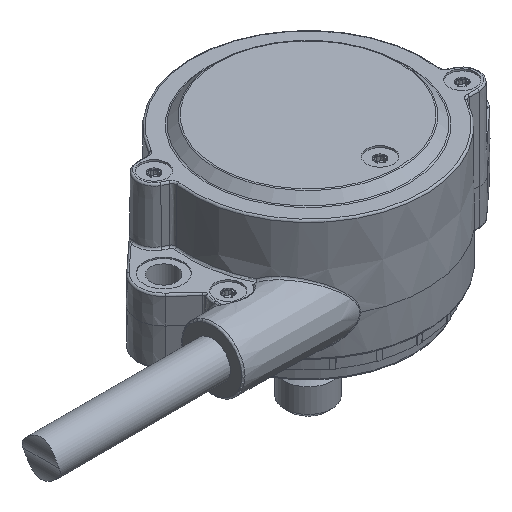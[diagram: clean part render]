
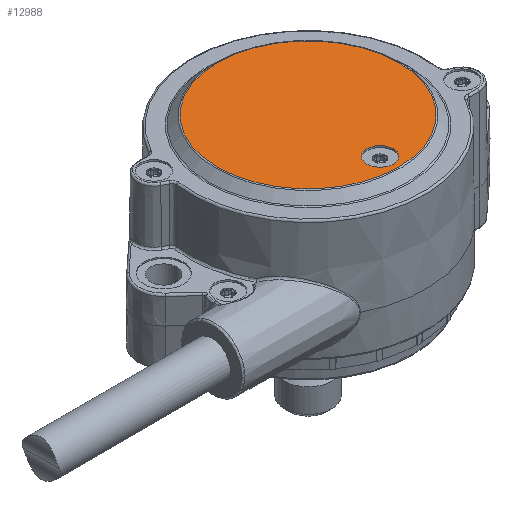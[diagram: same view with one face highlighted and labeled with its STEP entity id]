
A CAD part, isometric view. The second image highlights one B-rep face of the part: STEP entity #12988.
In plain terms, the highlighted planar face has unit normal (0, 0, 1).
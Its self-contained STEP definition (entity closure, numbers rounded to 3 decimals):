
#1508=CIRCLE('',#13721,2.25);
#1527=CIRCLE('',#13815,15.376);
#4202=ORIENTED_EDGE('',*,*,#5765,.T.);
#4203=ORIENTED_EDGE('',*,*,#5654,.F.);
#5654=EDGE_CURVE('',#6650,#6650,#1508,.T.);
#5765=EDGE_CURVE('',#6709,#6709,#1527,.T.);
#6650=VERTEX_POINT('',#23274);
#6709=VERTEX_POINT('',#23573);
#7825=EDGE_LOOP('',(#4202));
#7826=EDGE_LOOP('',(#4203));
#8436=FACE_BOUND('',#7825,.T.);
#8437=FACE_BOUND('',#7826,.T.);
#8647=PLANE('',#13814);
#12988=ADVANCED_FACE('',(#8436,#8437),#8647,.T.);
#13721=AXIS2_PLACEMENT_3D('',#23273,#15550,#15551);
#13814=AXIS2_PLACEMENT_3D('',#23571,#15778,#15779);
#13815=AXIS2_PLACEMENT_3D('',#23572,#15780,#15781);
#15550=DIRECTION('',(0.,0.,1.));
#15551=DIRECTION('',(1.,0.,0.));
#15778=DIRECTION('',(0.,0.,1.));
#15779=DIRECTION('',(1.,0.,0.));
#15780=DIRECTION('',(0.,0.,1.));
#15781=DIRECTION('',(1.,0.,0.));
#23273=CARTESIAN_POINT('',(0.,-12.2,22.));
#23274=CARTESIAN_POINT('',(2.25,-12.2,22.));
#23571=CARTESIAN_POINT('',(-15.5,0.,22.));
#23572=CARTESIAN_POINT('',(0.,0.,22.));
#23573=CARTESIAN_POINT('',(15.376,0.,22.));
